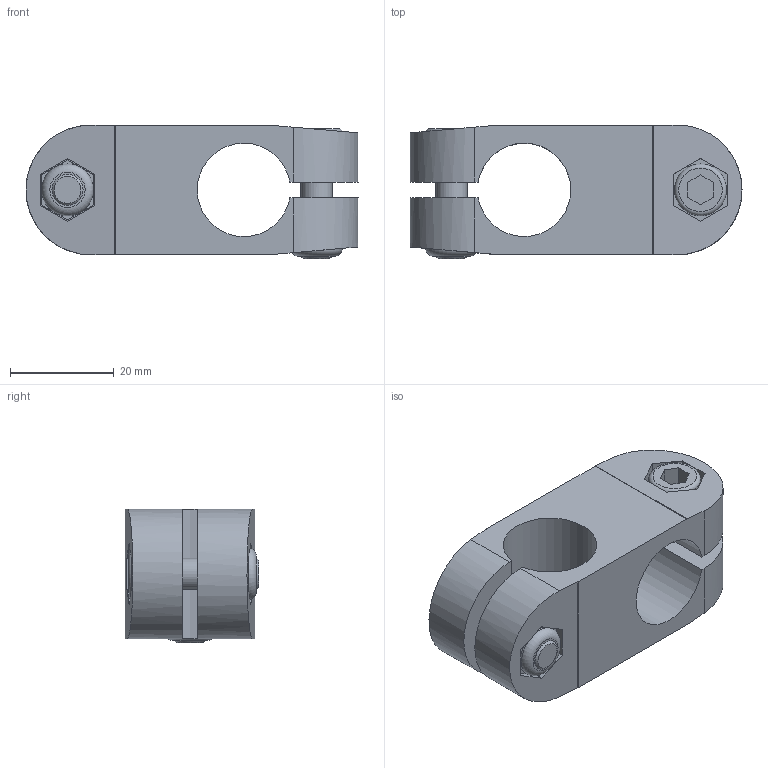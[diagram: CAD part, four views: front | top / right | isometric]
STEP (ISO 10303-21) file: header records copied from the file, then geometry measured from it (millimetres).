
FILE_DESCRIPTION( ( 'STEP AP203' ), '1' );
FILE_NAME( 'C:/Temp/Ganter_Step_05_03_2020/data/3_7/131/gn_131_1_al/Two-way connector clamp GN 131-B18-B18-2-BL.stp', '2020-03-12T14:16:08', ( 'License CC BY-ND 4.0' ), ( 'CADENAS' ), ' ', 'PARTsolutions', ' ' );
FILE_SCHEMA( ( 'CONFIG_CONTROL_DESIGN' ) );
Length unit declared in the file: millimetre
Products named in the file (1): _Two-way connector clamp GN 131-B18-B18-2-BL
Bounding box: 64 x 25.8 x 25.8 mm (x, y, z)
Volume: 21148.5 mm3; surface area: 11588.5 mm2
Topology: 1 solids, 1 shells, 116 faces, 279 edges, 181 vertices
Faces by surface type: plane 88, cylinder 22, torus 4, cone 2
Full cylindrical faces by diameter (mm): 6 x4, 6.5 x4, 10 x4
Entity records: 3260 total; most frequent: DIRECTION 550, CARTESIAN_POINT 549, ORIENTED_EDGE 512, EDGE_CURVE 256, LINE 196, VECTOR 196, AXIS2_PLACEMENT_3D 177, VERTEX_POINT 176
